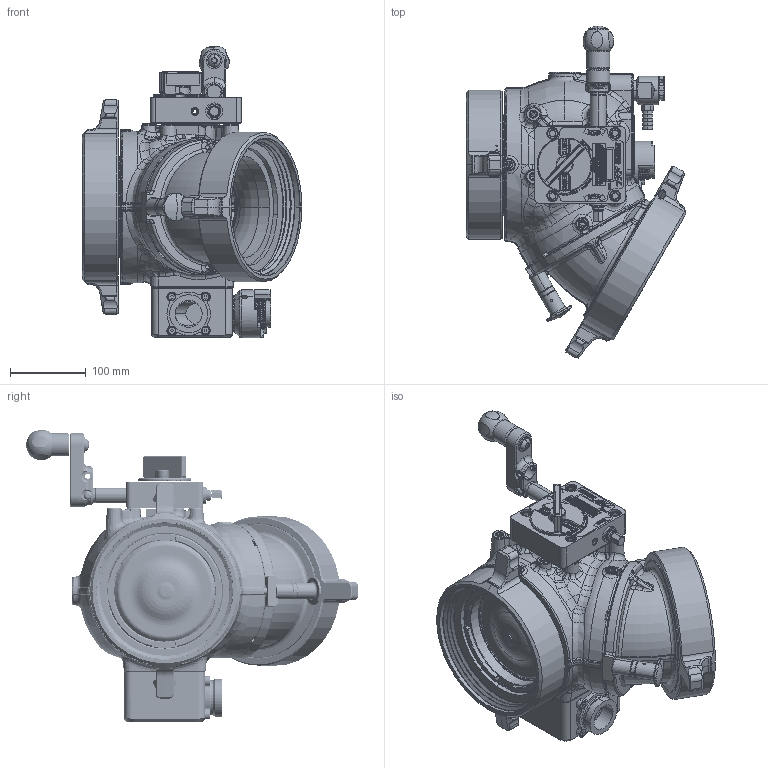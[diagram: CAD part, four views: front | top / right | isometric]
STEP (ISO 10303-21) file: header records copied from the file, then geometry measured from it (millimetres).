
FILE_DESCRIPTION (( 'STEP AP214' ), '1' );
FILE_NAME ('AXD_ASSEMBLY.SLDASM_AXD7HNX-NX-T Angled Position.step', '2014-09-12T20:58:12', ( '' ), ( '' ), 'SwSTEP 2.0', 'SolidWorks 2014', '' );
FILE_SCHEMA (( 'AUTOMOTIVE_DESIGN' ));
Length unit declared in the file: inch
Products named in the file (1): AXD_ASSEMBLY.SLDASM_AXD7HNX-NX-T Angled Position
Bounding box: 289.68 x 437.21 x 384.51 mm (x, y, z)
Surface area: 689493.1 mm2 (no closed solid volume)
Topology: 0 solids, 344 shells, 2732 faces, 17730 edges, 15171 vertices
Faces by surface type: plane 951, cylinder 624, bspline 476, cone 390, torus 271, sphere 20
Entity records: 272331 total; most frequent: CARTESIAN_POINT 116580, ORIENTED_EDGE 22985, DIRECTION 19762, EDGE_CURVE 17716, VERTEX_POINT 15169, VECTOR 9746, LINE 9746, AXIS2_PLACEMENT_3D 5008
